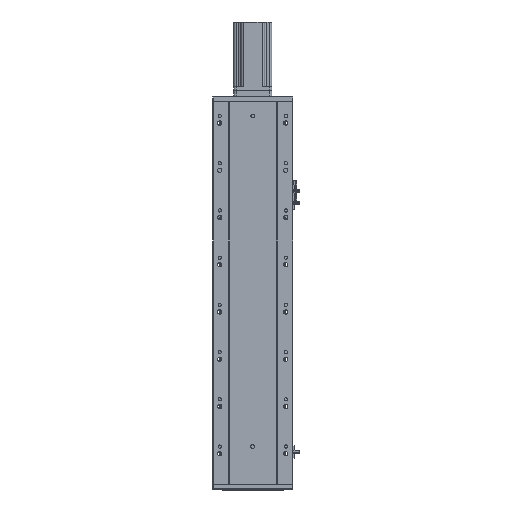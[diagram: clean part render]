
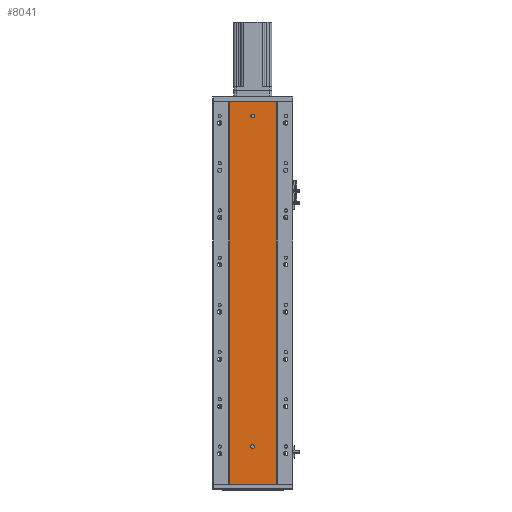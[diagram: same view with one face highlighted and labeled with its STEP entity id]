
A CAD part, front view. The second image highlights one B-rep face of the part: STEP entity #8041.
In plain terms, the highlighted planar face has unit normal (0, -1, 0).
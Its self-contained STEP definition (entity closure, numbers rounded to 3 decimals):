
#695 = DIRECTION ( 'NONE',  ( 0., 0., -1. ) ) ;
#750 = DIRECTION ( 'NONE',  ( 1., 0., 0. ) ) ;
#1500 = DIRECTION ( 'NONE',  ( 0., -1., 0. ) ) ;
#1637 = CARTESIAN_POINT ( 'NONE',  ( 136.47, 79.476, 780. ) ) ;
#2379 = FACE_BOUND ( 'NONE', #29661, .T. ) ;
#5808 = CARTESIAN_POINT ( 'NONE',  ( 0., 79.476, 0. ) ) ;
#5908 = ORIENTED_EDGE ( 'NONE', *, *, #29523, .F. ) ;
#5912 = FACE_OUTER_BOUND ( 'NONE', #17847, .T. ) ;
#7894 = VECTOR ( 'NONE', #750, 1000. ) ;
#8041 = ADVANCED_FACE ( 'NONE', ( #35204, #2379, #5912 ), #31891, .F. ) ;
#9220 = CARTESIAN_POINT ( 'NONE',  ( 136.47, 79.476, 76. ) ) ;
#10041 = ORIENTED_EDGE ( 'NONE', *, *, #33395, .F. ) ;
#10156 = CARTESIAN_POINT ( 'NONE',  ( 136.47, 79.476, 84. ) ) ;
#10479 = CIRCLE ( 'NONE', #34960, 4. ) ;
#12500 = ORIENTED_EDGE ( 'NONE', *, *, #32854, .F. ) ;
#12916 = CARTESIAN_POINT ( 'NONE',  ( 86.97, 79.476, 540. ) ) ;
#14050 = CARTESIAN_POINT ( 'NONE',  ( 185.97, 79.476, 810. ) ) ;
#14535 = CARTESIAN_POINT ( 'NONE',  ( 185.97, 79.476, 0. ) ) ;
#14586 = LINE ( 'NONE', #29206, #29246 ) ;
#15150 = VERTEX_POINT ( 'NONE', #37812 ) ;
#16042 = EDGE_CURVE ( 'NONE', #66050, #53166, #20899, .T. ) ;
#16770 = AXIS2_PLACEMENT_3D ( 'NONE', #63148, #30205, #52835 ) ;
#17847 = EDGE_LOOP ( 'NONE', ( #66362, #66471, #50167, #28839 ) ) ;
#18117 = AXIS2_PLACEMENT_3D ( 'NONE', #1637, #61813, #23048 ) ;
#20763 = CIRCLE ( 'NONE', #18117, 4. ) ;
#20848 = VERTEX_POINT ( 'NONE', #62947 ) ;
#20899 = B_SPLINE_CURVE_WITH_KNOTS ( 'NONE', 3,
 ( #56747, #12916, #34915, #51038 ),
 .UNSPECIFIED., .F., .F.,
 ( 4, 4 ),
 ( 0., 1. ),
 .UNSPECIFIED. ) ;
#21036 = VERTEX_POINT ( 'NONE', #42570 ) ;
#21580 = VERTEX_POINT ( 'NONE', #10156 ) ;
#21654 = AXIS2_PLACEMENT_3D ( 'NONE', #41816, #63844, #37236 ) ;
#23048 = DIRECTION ( 'NONE',  ( 0., 0., -1. ) ) ;
#23393 = CARTESIAN_POINT ( 'NONE',  ( 136.47, 79.476, 80. ) ) ;
#25422 = CIRCLE ( 'NONE', #16770, 4. ) ;
#26811 = LINE ( 'NONE', #5808, #7894 ) ;
#28839 = ORIENTED_EDGE ( 'NONE', *, *, #16042, .T. ) ;
#29206 = CARTESIAN_POINT ( 'NONE',  ( 0., 79.476, 810. ) ) ;
#29246 = VECTOR ( 'NONE', #51614, 1000. ) ;
#29523 = EDGE_CURVE ( 'NONE', #21036, #20848, #20763, .T. ) ;
#29661 = EDGE_LOOP ( 'NONE', ( #12500, #68649 ) ) ;
#30205 = DIRECTION ( 'NONE',  ( 0., -1., 0. ) ) ;
#31891 = PLANE ( 'NONE',  #21654 ) ;
#32854 = EDGE_CURVE ( 'NONE', #38369, #21580, #39034, .T. ) ;
#33277 = DIRECTION ( 'NONE',  ( 0., -1., 0. ) ) ;
#33395 = EDGE_CURVE ( 'NONE', #20848, #21036, #10479, .T. ) ;
#33780 = CARTESIAN_POINT ( 'NONE',  ( 86.97, 79.476, 810. ) ) ;
#34915 = CARTESIAN_POINT ( 'NONE',  ( 86.97, 79.476, 270. ) ) ;
#34960 = AXIS2_PLACEMENT_3D ( 'NONE', #49859, #33277, #695 ) ;
#35204 = FACE_BOUND ( 'NONE', #47271, .T. ) ;
#37236 = DIRECTION ( 'NONE',  ( 0., 0., 1. ) ) ;
#37812 = CARTESIAN_POINT ( 'NONE',  ( 185.97, 79.476, 810. ) ) ;
#38328 = EDGE_CURVE ( 'NONE', #21580, #38369, #25422, .T. ) ;
#38343 = EDGE_CURVE ( 'NONE', #15150, #44911, #55498, .T. ) ;
#38369 = VERTEX_POINT ( 'NONE', #9220 ) ;
#39034 = CIRCLE ( 'NONE', #59330, 4. ) ;
#39911 = CARTESIAN_POINT ( 'NONE',  ( 185.97, 79.476, 0. ) ) ;
#40597 = CARTESIAN_POINT ( 'NONE',  ( 86.97, 79.476, 0. ) ) ;
#41816 = CARTESIAN_POINT ( 'NONE',  ( 0., 79.476, 810. ) ) ;
#42570 = CARTESIAN_POINT ( 'NONE',  ( 136.47, 79.476, 776. ) ) ;
#44911 = VERTEX_POINT ( 'NONE', #39911 ) ;
#45608 = DIRECTION ( 'NONE',  ( 0., 0., -1. ) ) ;
#47271 = EDGE_LOOP ( 'NONE', ( #5908, #10041 ) ) ;
#49859 = CARTESIAN_POINT ( 'NONE',  ( 136.47, 79.476, 780. ) ) ;
#50167 = ORIENTED_EDGE ( 'NONE', *, *, #63430, .F. ) ;
#50956 = EDGE_CURVE ( 'NONE', #53166, #44911, #26811, .T. ) ;
#51038 = CARTESIAN_POINT ( 'NONE',  ( 86.97, 79.476, 0. ) ) ;
#51614 = DIRECTION ( 'NONE',  ( 1., 0., 0. ) ) ;
#52835 = DIRECTION ( 'NONE',  ( 0., 0., -1. ) ) ;
#53166 = VERTEX_POINT ( 'NONE', #40597 ) ;
#53304 = CARTESIAN_POINT ( 'NONE',  ( 185.97, 79.476, 270. ) ) ;
#55498 = B_SPLINE_CURVE_WITH_KNOTS ( 'NONE', 3,
 ( #14050, #69077, #53304, #14535 ),
 .UNSPECIFIED., .F., .F.,
 ( 4, 4 ),
 ( 0., 1. ),
 .UNSPECIFIED. ) ;
#56747 = CARTESIAN_POINT ( 'NONE',  ( 86.97, 79.476, 810. ) ) ;
#59330 = AXIS2_PLACEMENT_3D ( 'NONE', #23393, #1500, #45608 ) ;
#61813 = DIRECTION ( 'NONE',  ( 0., -1., 0. ) ) ;
#62947 = CARTESIAN_POINT ( 'NONE',  ( 136.47, 79.476, 784. ) ) ;
#63148 = CARTESIAN_POINT ( 'NONE',  ( 136.47, 79.476, 80. ) ) ;
#63430 = EDGE_CURVE ( 'NONE', #66050, #15150, #14586, .T. ) ;
#63844 = DIRECTION ( 'NONE',  ( 0., 1., 0. ) ) ;
#66050 = VERTEX_POINT ( 'NONE', #33780 ) ;
#66362 = ORIENTED_EDGE ( 'NONE', *, *, #50956, .T. ) ;
#66471 = ORIENTED_EDGE ( 'NONE', *, *, #38343, .F. ) ;
#68649 = ORIENTED_EDGE ( 'NONE', *, *, #38328, .F. ) ;
#69077 = CARTESIAN_POINT ( 'NONE',  ( 185.97, 79.476, 540. ) ) ;
